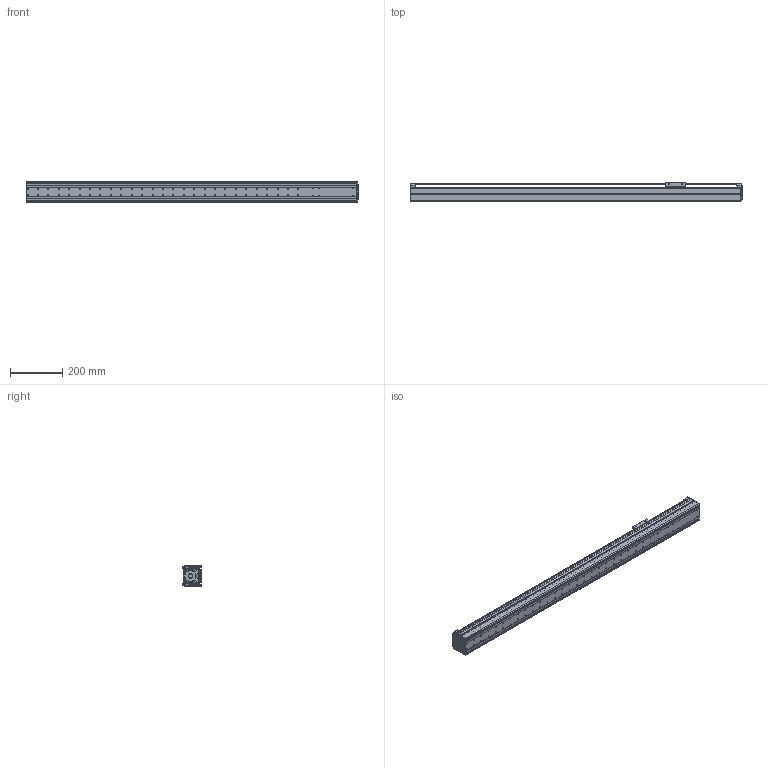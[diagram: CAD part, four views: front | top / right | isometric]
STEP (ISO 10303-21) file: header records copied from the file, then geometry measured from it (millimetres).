
FILE_DESCRIPTION((''),'2;1');
FILE_NAME('BE10E-ST-S_N-95_IGS_PRT','2017-06-17T',(' '),(''),'PRO/ENGINEER BY PARAMETRIC TECHNOLOGY CORPORATION, 2015030','PRO/ENGINEER BY PARAMETRIC TECHNOLOGY CORPORATION, 2015030','');
FILE_SCHEMA(('CONFIG_CONTROL_DESIGN'));
Length unit declared in the file: millimetre
Products named in the file (1): BE10E-ST-S_N-95_IGS_PRT
Bounding box: 1275 x 75 x 78 mm (x, y, z)
Volume: 1417637.9 mm3; surface area: 947919.6 mm2
Topology: 3 solids, 91 shells, 1257 faces, 3383 edges, 2214 vertices
Faces by surface type: cylinder 658, plane 446, torus 64, sphere 42, cone 38, bspline 9
Entity records: 40978 total; most frequent: CARTESIAN_POINT 8570, DIRECTION 7044, ORIENTED_EDGE 6372, EDGE_CURVE 3359, AXIS2_PLACEMENT_3D 2696, VERTEX_POINT 2214, VECTOR 1652, LINE 1652
